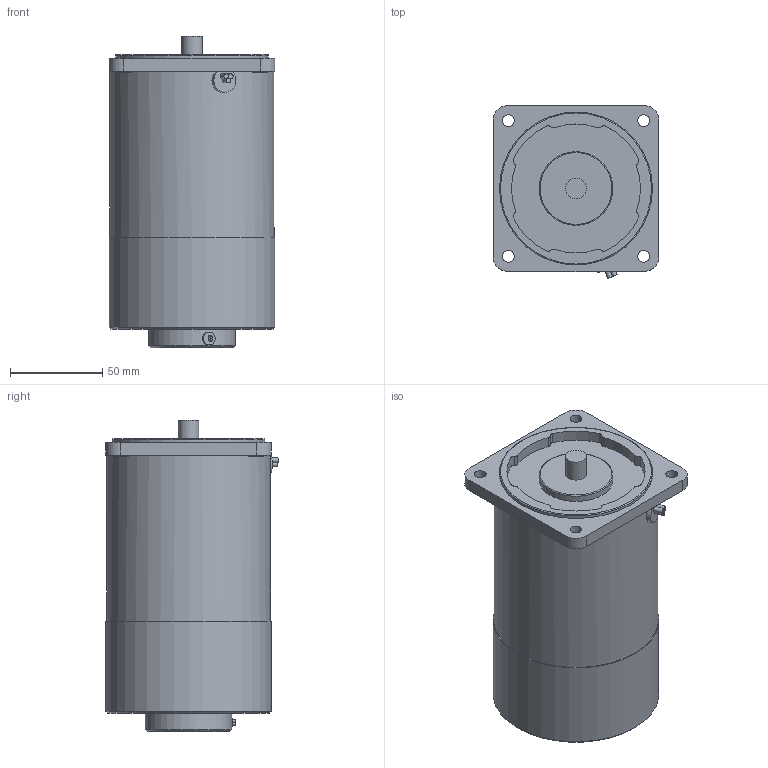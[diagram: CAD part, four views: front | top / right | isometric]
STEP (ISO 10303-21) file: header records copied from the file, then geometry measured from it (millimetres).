
FILE_DESCRIPTION((''),'2;1');
FILE_NAME('E:\2공장-도면\3D\표준형 3D(민규)\step file\D\K9RG40Nㅁ-D.stp','2014-11-17T11:04:13',('AHN'),(''),'Autodesk Inventor 2012','Autodesk Inventor 2012','');
FILE_SCHEMA(('CONFIG_CONTROL_DESIGN'));
Length unit declared in the file: millimetre
Products named in the file (1): K9RG40Nㅁ-D
Bounding box: 90 x 93.78 x 169 mm (x, y, z)
Volume: 943187.9 mm3; surface area: 62736.6 mm2
Topology: 1 solids, 1 shells, 81 faces, 182 edges, 113 vertices
Faces by surface type: cylinder 52, plane 25, cone 2, torus 2
Full cylindrical faces by diameter (mm): 1.4 x2, 6.5 x4, 7 x1, 8 x4, 11.3 x1, 40 x1, 47 x1, 83 x1, 89 x1, 90 x1
Entity records: 2260 total; most frequent: DIRECTION 427, CARTESIAN_POINT 413, ORIENTED_EDGE 318, AXIS2_PLACEMENT_3D 188, EDGE_CURVE 159, EDGE_LOOP 122, VERTEX_POINT 109, CIRCLE 106
